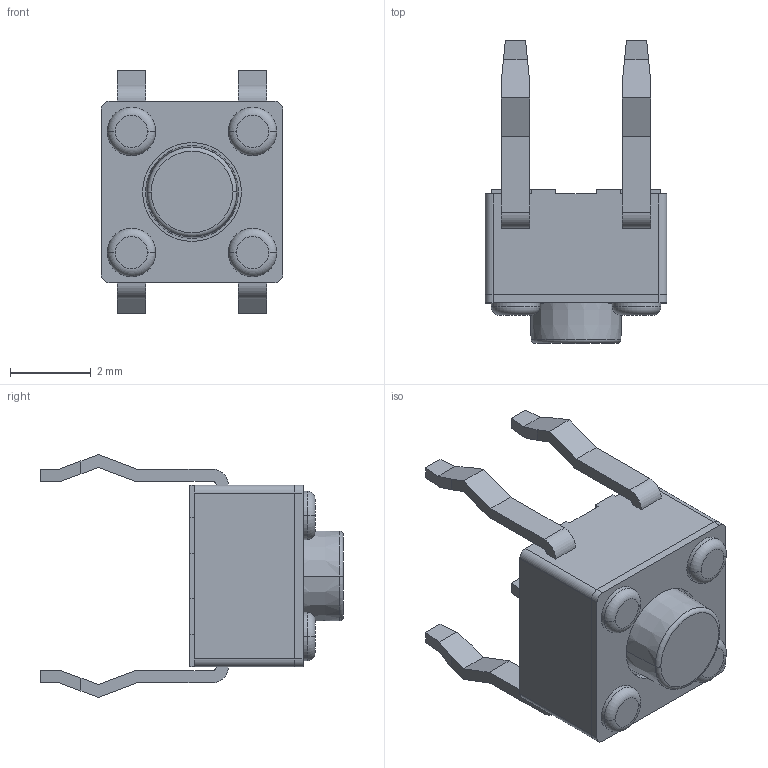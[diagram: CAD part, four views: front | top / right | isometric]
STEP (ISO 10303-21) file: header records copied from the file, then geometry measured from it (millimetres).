
FILE_DESCRIPTION((''),'2;1');
FILE_NAME('JQB4545-C0381-01G_ASM','2026-05-25T09:34:28',('Admin'),(''),'CREO PARAMETRIC BY PTC INC, 2019224','CREO PARAMETRIC BY PTC INC, 2019224','');
FILE_SCHEMA(('AUTOMOTIVE_DESIGN { 1 0 10303 214 1 1 1 1 }'));
Length unit declared in the file: millimetre
Products named in the file (3): JQB4545-C0381-01G_04; JQB4545-C0381-01G_02; JQB4545-C0381-01G_ASM
Assembly tree (2 placements, depth 2):
  JQB4545-C0381-01G_ASM
    JQB4545-C0381-01G_04
    JQB4545-C0381-01G_02
Bounding box: 4.5 x 7.5 x 6.02 mm (x, y, z)
Volume: 64.4 mm3; surface area: 177.4 mm2
Topology: 2 solids, 2 shells, 151 faces, 402 edges, 278 vertices
Faces by surface type: plane 97, cylinder 42, torus 10, cone 2
Entity records: 6515 total; most frequent: DIRECTION 834, CARTESIAN_POINT 829, ORIENTED_EDGE 784, PRESENTATION_STYLE_ASSIGNMENT 408, EDGE_CURVE 392, STYLED_ITEM 352, CURVE_STYLE 351, VECTOR 294
